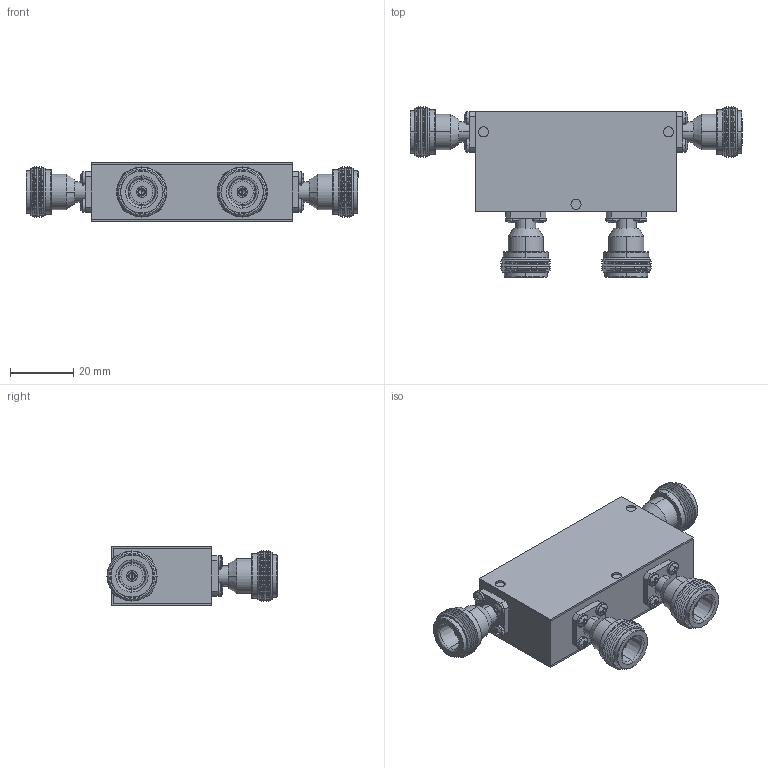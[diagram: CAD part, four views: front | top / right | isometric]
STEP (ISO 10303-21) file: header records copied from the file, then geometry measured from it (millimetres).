
FILE_DESCRIPTION (( 'STEP AP214' ), '1' );
FILE_NAME ('Package 13 Circ FFFF Type-N.step', '2021-12-01T20:57:19', ( '' ), ( '' ), 'SwSTEP 2.0', 'SolidWorks 2016', '' );
FILE_SCHEMA (( 'AUTOMOTIVE_DESIGN' ));
Length unit declared in the file: inch
Products named in the file (5): Package 13 Circ FFFF Type-N; Package 13; Package Size 13; pan cross head_ai_CR-PHMS 0.086-56x0.125x0.125-N; Type-N Female 0.500 flange
Assembly tree (22 placements, depth 2):
  Package 13 Circ FFFF Type-N
    Package 13
    Type-N Female 0.500 flange  x4
    pan cross head_ai_CR-PHMS 0.086-56x0.125x0.125-N  x16
    Package Size 13
Bounding box: 104.85 x 53.74 x 18.54 mm (x, y, z)
Volume: 44988 mm3; surface area: 26426.5 mm2
Topology: 22 solids, 22 shells, 892 faces, 2028 edges, 1236 vertices
Faces by surface type: plane 404, cylinder 240, cone 176, torus 32, sphere 32, bspline 8
Entity records: 5491 total; most frequent: DIRECTION 989, CARTESIAN_POINT 972, ORIENTED_EDGE 818, EDGE_CURVE 409, AXIS2_PLACEMENT_3D 400, VERTEX_POINT 255, EDGE_LOOP 208, CIRCLE 202
